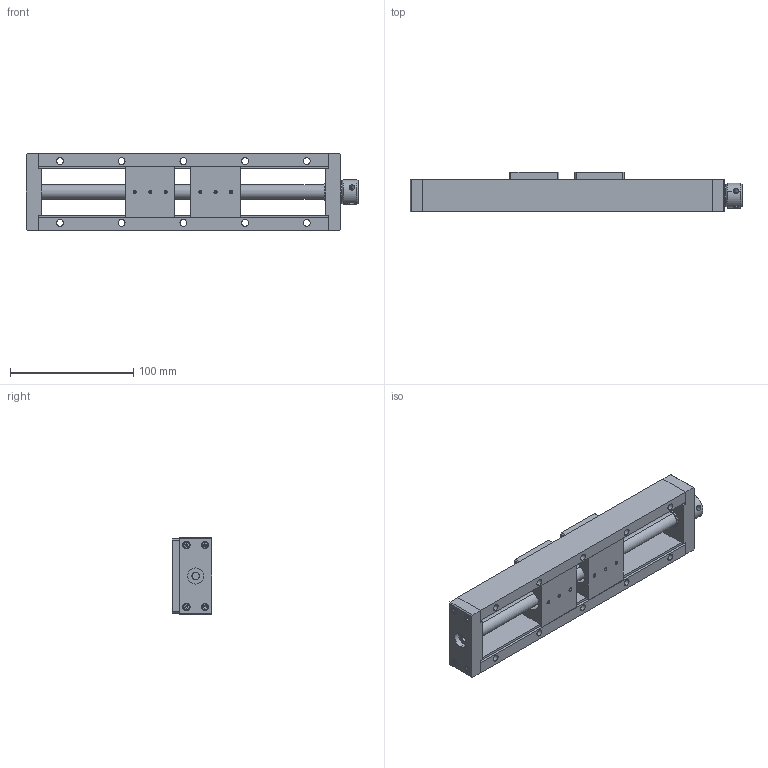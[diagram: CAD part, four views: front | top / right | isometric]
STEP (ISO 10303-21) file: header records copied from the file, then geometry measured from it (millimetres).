
FILE_DESCRIPTION (( 'STEP AP203' ), '1' );
FILE_NAME ('BANON150.STEP', '2024-02-28T07:00:10', ( 'China' ), ( 'Microsoft' ), 'SwSTEP 2.0', 'SolidWorks 2024', '' );
FILE_SCHEMA (( 'CONFIG_CONTROL_DESIGN' ));
Length unit declared in the file: millimetre
Products named in the file (1): BANON150
Bounding box: 269 x 32 x 62 mm (x, y, z)
Volume: 293784.1 mm3; surface area: 107311.4 mm2
Topology: 39 solids, 39 shells, 1010 faces, 2344 edges, 1411 vertices
Faces by surface type: plane 498, cylinder 310, cone 154, torus 48
Entity records: 29023 total; most frequent: CARTESIAN_POINT 5618, DIRECTION 5156, ORIENTED_EDGE 4524, EDGE_CURVE 2262, AXIS2_PLACEMENT_3D 1941, VERTEX_POINT 1411, VECTOR 1274, LINE 1274
